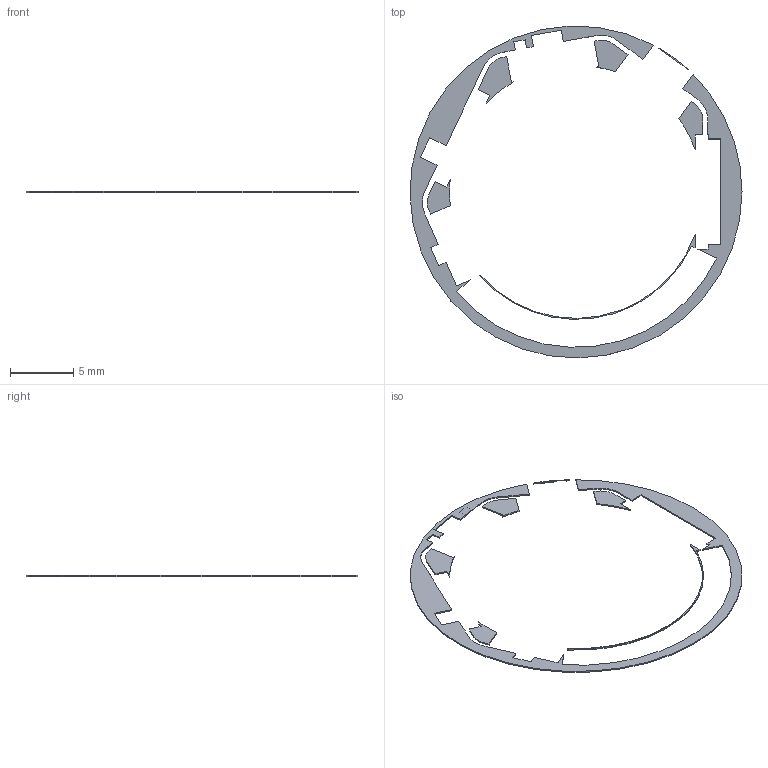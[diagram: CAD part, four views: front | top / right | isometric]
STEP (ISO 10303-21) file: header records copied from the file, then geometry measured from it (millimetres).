
FILE_DESCRIPTION(('FreeCAD Model'),'2;1');
FILE_NAME('Open CASCADE Shape Model','2026-10-23T21:15:57',('FreeCAD'),( 'FreeCAD'),'Open CASCADE STEP processor 7.8','FreeCAD','Unknown');
FILE_SCHEMA(('AUTOMOTIVE_DESIGN { 1 0 10303 214 1 1 1 1 }'));
Length unit declared in the file: millimetre
Products named in the file (1): Open CASCADE STEP translator 7.8 24
Bounding box: 26.18 x 26.17 x 0.1 mm (x, y, z)
Volume: 10 mm3; surface area: 224.7 mm2
Topology: 8 solids, 8 shells, 114 faces, 296 edges, 198 vertices
Faces by surface type: plane 94, cylinder 20
Entity records: 3466 total; most frequent: CARTESIAN_POINT 627, ORIENTED_EDGE 592, DIRECTION 564, EDGE_CURVE 296, LINE 254, VECTOR 254, VERTEX_POINT 198, AXIS2_PLACEMENT_3D 155
